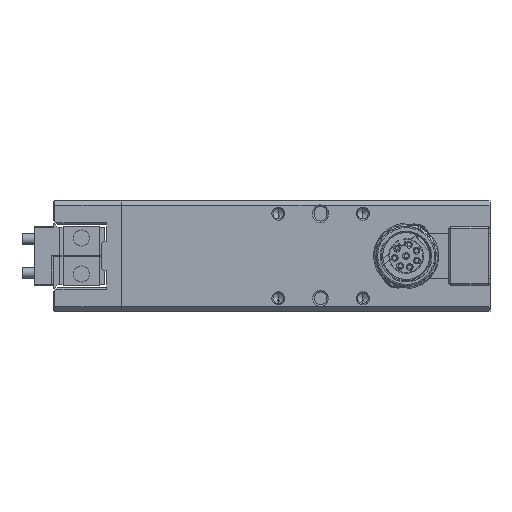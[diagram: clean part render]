
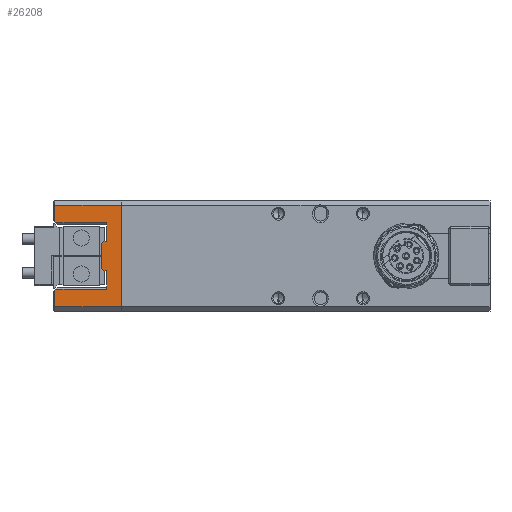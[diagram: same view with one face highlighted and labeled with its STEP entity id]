
A CAD part, left-side view. The second image highlights one B-rep face of the part: STEP entity #26208.
In plain terms, the highlighted planar face has unit normal (-1, 0, 0).
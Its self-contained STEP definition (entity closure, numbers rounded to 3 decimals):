
#187 = LINE ( 'NONE', #77744, #63043 ) ;
#661 = VERTEX_POINT ( 'NONE', #52277 ) ;
#1526 = ORIENTED_EDGE ( 'NONE', *, *, #18051, .T. ) ;
#1926 = EDGE_CURVE ( 'NONE', #72856, #41434, #39943, .T. ) ;
#2011 = LINE ( 'NONE', #51132, #3545 ) ;
#2116 = VECTOR ( 'NONE', #43469, 1000. ) ;
#2747 = VERTEX_POINT ( 'NONE', #16892 ) ;
#3545 = VECTOR ( 'NONE', #76401, 1000. ) ;
#4053 = CARTESIAN_POINT ( 'NONE',  ( -31.363, 38.504, 99. ) ) ;
#4838 = ORIENTED_EDGE ( 'NONE', *, *, #6091, .T. ) ;
#5422 = VECTOR ( 'NONE', #27928, 1000. ) ;
#5457 = VERTEX_POINT ( 'NONE', #13191 ) ;
#5668 = LINE ( 'NONE', #62145, #49938 ) ;
#5999 = VERTEX_POINT ( 'NONE', #22552 ) ;
#6091 = EDGE_CURVE ( 'NONE', #64449, #64745, #81888, .T. ) ;
#6495 = EDGE_CURVE ( 'NONE', #13688, #64449, #28755, .T. ) ;
#7322 = VECTOR ( 'NONE', #23385, 1000. ) ;
#9230 = CARTESIAN_POINT ( 'NONE',  ( -31.363, 54.504, 99. ) ) ;
#10370 = ORIENTED_EDGE ( 'NONE', *, *, #33591, .T. ) ;
#10875 = EDGE_CURVE ( 'NONE', #37961, #5999, #187, .T. ) ;
#13191 = CARTESIAN_POINT ( 'NONE',  ( -31.363, 54.304, 75. ) ) ;
#13348 = CARTESIAN_POINT ( 'NONE',  ( -31.363, 36.004, 87. ) ) ;
#13674 = ORIENTED_EDGE ( 'NONE', *, *, #6495, .T. ) ;
#13688 = VERTEX_POINT ( 'NONE', #4053 ) ;
#15343 = ORIENTED_EDGE ( 'NONE', *, *, #52575, .T. ) ;
#15787 = VECTOR ( 'NONE', #44803, 1000. ) ;
#16892 = CARTESIAN_POINT ( 'NONE',  ( -31.363, 42.004, 90.5 ) ) ;
#17820 = VERTEX_POINT ( 'NONE', #27533 ) ;
#18051 = EDGE_CURVE ( 'NONE', #5457, #64252, #64781, .T. ) ;
#18519 = EDGE_CURVE ( 'NONE', #32555, #17820, #28609, .T. ) ;
#18821 = CARTESIAN_POINT ( 'NONE',  ( -31.363, 54.304, 99. ) ) ;
#19104 = LINE ( 'NONE', #37420, #73077 ) ;
#19790 = EDGE_CURVE ( 'NONE', #71262, #5999, #5668, .T. ) ;
#20406 = VECTOR ( 'NONE', #69596, 1000. ) ;
#22552 = CARTESIAN_POINT ( 'NONE',  ( -31.363, 43.204, 90. ) ) ;
#23385 = DIRECTION ( 'NONE',  ( 0., 0., -1. ) ) ;
#23859 = PLANE ( 'NONE',  #45527 ) ;
#24026 = CARTESIAN_POINT ( 'NONE',  ( -31.363, 54.004, 79.2 ) ) ;
#24241 = LINE ( 'NONE', #56973, #7322 ) ;
#24659 = LINE ( 'NONE', #37554, #44599 ) ;
#24770 = LINE ( 'NONE', #75383, #2116 ) ;
#25678 = LINE ( 'NONE', #51441, #15787 ) ;
#26208 = ADVANCED_FACE ( 'NONE', ( #28836 ), #23859, .T. ) ;
#27533 = CARTESIAN_POINT ( 'NONE',  ( -31.363, 42.004, 94.8 ) ) ;
#27650 = ORIENTED_EDGE ( 'NONE', *, *, #66598, .F. ) ;
#27928 = DIRECTION ( 'NONE',  ( 0., 1., 0. ) ) ;
#28195 = EDGE_CURVE ( 'NONE', #661, #5457, #24241, .T. ) ;
#28609 = LINE ( 'NONE', #53933, #31139 ) ;
#28755 = LINE ( 'NONE', #9230, #5422 ) ;
#28836 = FACE_OUTER_BOUND ( 'NONE', #75087, .T. ) ;
#29124 = VECTOR ( 'NONE', #33681, 1000. ) ;
#29782 = VERTEX_POINT ( 'NONE', #51042 ) ;
#30005 = VECTOR ( 'NONE', #45344, 1000. ) ;
#30701 = ORIENTED_EDGE ( 'NONE', *, *, #19790, .T. ) ;
#31139 = VECTOR ( 'NONE', #40725, 1000. ) ;
#31480 = DIRECTION ( 'NONE',  ( 0., 0.707, -0.707 ) ) ;
#32180 = VECTOR ( 'NONE', #40210, 1000. ) ;
#32555 = VERTEX_POINT ( 'NONE', #48622 ) ;
#32914 = CARTESIAN_POINT ( 'NONE',  ( -31.363, 38.504, 75. ) ) ;
#33591 = EDGE_CURVE ( 'NONE', #41434, #661, #24659, .T. ) ;
#33681 = DIRECTION ( 'NONE',  ( 0., 1., 0. ) ) ;
#33891 = EDGE_CURVE ( 'NONE', #64252, #13688, #2011, .T. ) ;
#36219 = ORIENTED_EDGE ( 'NONE', *, *, #77883, .F. ) ;
#37420 = CARTESIAN_POINT ( 'NONE',  ( -31.363, 42.004, 79.5 ) ) ;
#37554 = CARTESIAN_POINT ( 'NONE',  ( -31.363, 54.504, 78.7 ) ) ;
#37961 = VERTEX_POINT ( 'NONE', #79362 ) ;
#38497 = DIRECTION ( 'NONE',  ( 0., 0., 1. ) ) ;
#39033 = CARTESIAN_POINT ( 'NONE',  ( -31.363, 42.704, 90.5 ) ) ;
#39943 = LINE ( 'NONE', #46133, #29124 ) ;
#39965 = CARTESIAN_POINT ( 'NONE',  ( -31.363, 42.004, 79.2 ) ) ;
#40170 = VERTEX_POINT ( 'NONE', #69543 ) ;
#40210 = DIRECTION ( 'NONE',  ( 0., 0., 1. ) ) ;
#40457 = ORIENTED_EDGE ( 'NONE', *, *, #33891, .T. ) ;
#40725 = DIRECTION ( 'NONE',  ( 0., -1., 0. ) ) ;
#41434 = VERTEX_POINT ( 'NONE', #24026 ) ;
#43469 = DIRECTION ( 'NONE',  ( 0., -1., 0. ) ) ;
#43637 = CARTESIAN_POINT ( 'NONE',  ( -31.363, 54.304, 95.1 ) ) ;
#44599 = VECTOR ( 'NONE', #76507, 1000. ) ;
#44803 = DIRECTION ( 'NONE',  ( 0., -0.707, -0.707 ) ) ;
#45344 = DIRECTION ( 'NONE',  ( 0., -1., 0. ) ) ;
#45527 = AXIS2_PLACEMENT_3D ( 'NONE', #13348, #70553, #64759 ) ;
#45707 = CARTESIAN_POINT ( 'NONE',  ( -31.363, 43.204, 90.5 ) ) ;
#46133 = CARTESIAN_POINT ( 'NONE',  ( -31.363, 50.794, 79.2 ) ) ;
#46700 = ORIENTED_EDGE ( 'NONE', *, *, #1926, .T. ) ;
#48360 = EDGE_CURVE ( 'NONE', #37961, #29782, #63418, .T. ) ;
#48622 = CARTESIAN_POINT ( 'NONE',  ( -31.363, 54.004, 94.8 ) ) ;
#49938 = VECTOR ( 'NONE', #31480, 1000. ) ;
#51042 = CARTESIAN_POINT ( 'NONE',  ( -31.363, 42.704, 83.5 ) ) ;
#51044 = ORIENTED_EDGE ( 'NONE', *, *, #48360, .T. ) ;
#51132 = CARTESIAN_POINT ( 'NONE',  ( -31.363, 38.504, 87. ) ) ;
#51441 = CARTESIAN_POINT ( 'NONE',  ( -31.363, 54.504, 95.3 ) ) ;
#52277 = CARTESIAN_POINT ( 'NONE',  ( -31.363, 54.304, 78.9 ) ) ;
#52575 = EDGE_CURVE ( 'NONE', #64745, #32555, #25678, .T. ) ;
#53933 = CARTESIAN_POINT ( 'NONE',  ( -31.363, 45.214, 94.8 ) ) ;
#56915 = DIRECTION ( 'NONE',  ( 0., -1., 0. ) ) ;
#56973 = CARTESIAN_POINT ( 'NONE',  ( -31.363, 54.304, 74.5 ) ) ;
#57189 = CARTESIAN_POINT ( 'NONE',  ( -31.363, 41.104, 81.9 ) ) ;
#57321 = LINE ( 'NONE', #45707, #79196 ) ;
#58099 = EDGE_CURVE ( 'NONE', #29782, #40170, #24770, .T. ) ;
#59018 = ORIENTED_EDGE ( 'NONE', *, *, #10875, .F. ) ;
#59489 = CARTESIAN_POINT ( 'NONE',  ( -31.363, 38.504, 75. ) ) ;
#59855 = ORIENTED_EDGE ( 'NONE', *, *, #18519, .T. ) ;
#62145 = CARTESIAN_POINT ( 'NONE',  ( -31.363, 41.104, 92.1 ) ) ;
#62652 = DIRECTION ( 'NONE',  ( 0., 0., 1. ) ) ;
#63043 = VECTOR ( 'NONE', #38497, 1000. ) ;
#63418 = LINE ( 'NONE', #57189, #20406 ) ;
#63610 = DIRECTION ( 'NONE',  ( 0., 0., -1. ) ) ;
#64252 = VERTEX_POINT ( 'NONE', #59489 ) ;
#64449 = VERTEX_POINT ( 'NONE', #18821 ) ;
#64745 = VERTEX_POINT ( 'NONE', #43637 ) ;
#64759 = DIRECTION ( 'NONE',  ( 0., 1., 0. ) ) ;
#64781 = LINE ( 'NONE', #32914, #30005 ) ;
#65741 = ORIENTED_EDGE ( 'NONE', *, *, #28195, .T. ) ;
#66598 = EDGE_CURVE ( 'NONE', #71262, #2747, #57321, .T. ) ;
#69102 = VECTOR ( 'NONE', #63610, 1000. ) ;
#69543 = CARTESIAN_POINT ( 'NONE',  ( -31.363, 42.004, 83.5 ) ) ;
#69596 = DIRECTION ( 'NONE',  ( 0., -0.707, -0.707 ) ) ;
#70553 = DIRECTION ( 'NONE',  ( -1., 0., 0. ) ) ;
#71007 = ORIENTED_EDGE ( 'NONE', *, *, #58099, .T. ) ;
#71262 = VERTEX_POINT ( 'NONE', #39033 ) ;
#72055 = CARTESIAN_POINT ( 'NONE',  ( -31.363, 42.004, 79.5 ) ) ;
#72856 = VERTEX_POINT ( 'NONE', #39965 ) ;
#73077 = VECTOR ( 'NONE', #62652, 1000. ) ;
#75087 = EDGE_LOOP ( 'NONE', ( #46700, #10370, #65741, #1526, #40457, #13674, #4838, #15343, #59855, #36219, #27650, #30701, #59018, #51044, #71007, #79727 ) ) ;
#75383 = CARTESIAN_POINT ( 'NONE',  ( -31.363, 43.204, 83.5 ) ) ;
#75679 = CARTESIAN_POINT ( 'NONE',  ( -31.363, 54.304, 94.8 ) ) ;
#76401 = DIRECTION ( 'NONE',  ( 0., 0., 1. ) ) ;
#76507 = DIRECTION ( 'NONE',  ( 0., 0.707, -0.707 ) ) ;
#76728 = LINE ( 'NONE', #72055, #32180 ) ;
#77505 = EDGE_CURVE ( 'NONE', #72856, #40170, #19104, .T. ) ;
#77744 = CARTESIAN_POINT ( 'NONE',  ( -31.363, 43.204, 83.5 ) ) ;
#77883 = EDGE_CURVE ( 'NONE', #2747, #17820, #76728, .T. ) ;
#79196 = VECTOR ( 'NONE', #56915, 1000. ) ;
#79362 = CARTESIAN_POINT ( 'NONE',  ( -31.363, 43.204, 84. ) ) ;
#79727 = ORIENTED_EDGE ( 'NONE', *, *, #77505, .F. ) ;
#81888 = LINE ( 'NONE', #75679, #69102 ) ;
